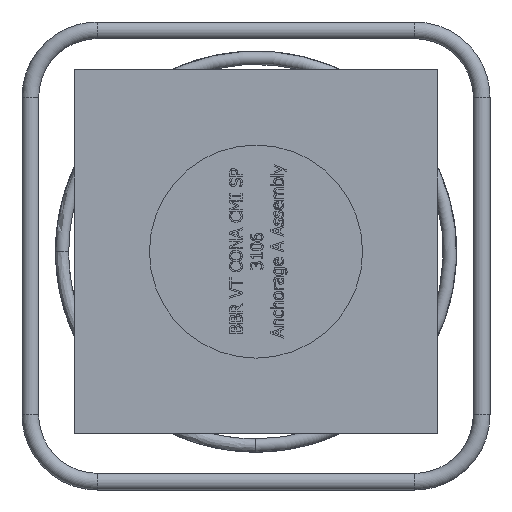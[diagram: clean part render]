
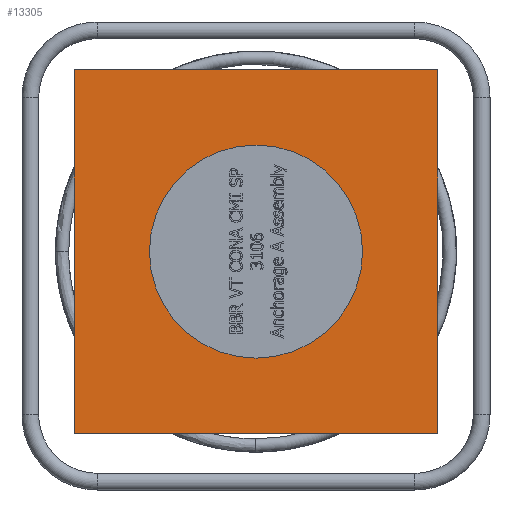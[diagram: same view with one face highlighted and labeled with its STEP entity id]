
A CAD part, left-side view. The second image highlights one B-rep face of the part: STEP entity #13305.
In plain terms, the highlighted planar face has unit normal (-1, 0, 0).
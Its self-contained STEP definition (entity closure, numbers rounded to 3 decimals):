
#1989=LINE('',#27813,#3064);
#1993=LINE('',#27820,#3068);
#1996=LINE('',#27825,#3071);
#1999=LINE('',#27829,#3074);
#3064=VECTOR('',#15799,435.);
#3068=VECTOR('',#15805,435.);
#3071=VECTOR('',#15810,435.);
#3074=VECTOR('',#15815,435.);
#3393=PLANE('',#13792);
#3559=FACE_BOUND('',#5102,.T.);
#4274=FACE_OUTER_BOUND('',#5101,.T.);
#5101=EDGE_LOOP('',(#11766,#11767,#11768,#11769));
#5102=EDGE_LOOP('',(#11770));
#5239=CIRCLE('',#13774,127.5);
#6447=VERTEX_POINT('',#23430);
#6462=VERTEX_POINT('',#27811);
#6463=VERTEX_POINT('',#27812);
#6465=VERTEX_POINT('',#27819);
#6466=VERTEX_POINT('',#27824);
#8220=EDGE_CURVE('',#6447,#6447,#5239,.T.);
#8237=EDGE_CURVE('',#6462,#6463,#1989,.T.);
#8241=EDGE_CURVE('',#6463,#6465,#1993,.T.);
#8244=EDGE_CURVE('',#6465,#6466,#1996,.T.);
#8247=EDGE_CURVE('',#6466,#6462,#1999,.T.);
#11766=ORIENTED_EDGE('',*,*,#8247,.T.);
#11767=ORIENTED_EDGE('',*,*,#8237,.T.);
#11768=ORIENTED_EDGE('',*,*,#8241,.T.);
#11769=ORIENTED_EDGE('',*,*,#8244,.T.);
#11770=ORIENTED_EDGE('',*,*,#8220,.T.);
#13305=ADVANCED_FACE('',(#4274,#3559),#3393,.T.);
#13774=AXIS2_PLACEMENT_3D('',#23431,#15763,#15764);
#13792=AXIS2_PLACEMENT_3D('',#27831,#15817,#15818);
#15763=DIRECTION('center_axis',(1.,0.,0.));
#15764=DIRECTION('ref_axis',(0.,0.,
1.));
#15799=DIRECTION('',(0.,0.,-1.));
#15805=DIRECTION('',(0.,-1.,0.));
#15810=DIRECTION('',(0.,0.,1.));
#15815=DIRECTION('',(0.,1.,0.));
#15817=DIRECTION('center_axis',(-1.,0.,0.));
#15818=DIRECTION('ref_axis',(0.,0.,-1.));
#23430=CARTESIAN_POINT('',(-112.151,-127.5,5.253));
#23431=CARTESIAN_POINT('Origin',(-112.151,0.,
5.253));
#27811=CARTESIAN_POINT('',(-112.151,217.5,222.753));
#27812=CARTESIAN_POINT('',(-112.151,217.5,-212.247));
#27813=CARTESIAN_POINT('',(-112.151,217.5,222.753));
#27819=CARTESIAN_POINT('',(-112.151,-217.5,-212.247));
#27820=CARTESIAN_POINT('',(-112.151,217.5,-212.247));
#27824=CARTESIAN_POINT('',(-112.151,-217.5,222.753));
#27825=CARTESIAN_POINT('',(-112.151,-217.5,-212.247));
#27829=CARTESIAN_POINT('',(-112.151,-217.5,222.753));
#27831=CARTESIAN_POINT('Origin',(-112.151,0.,5.253));
